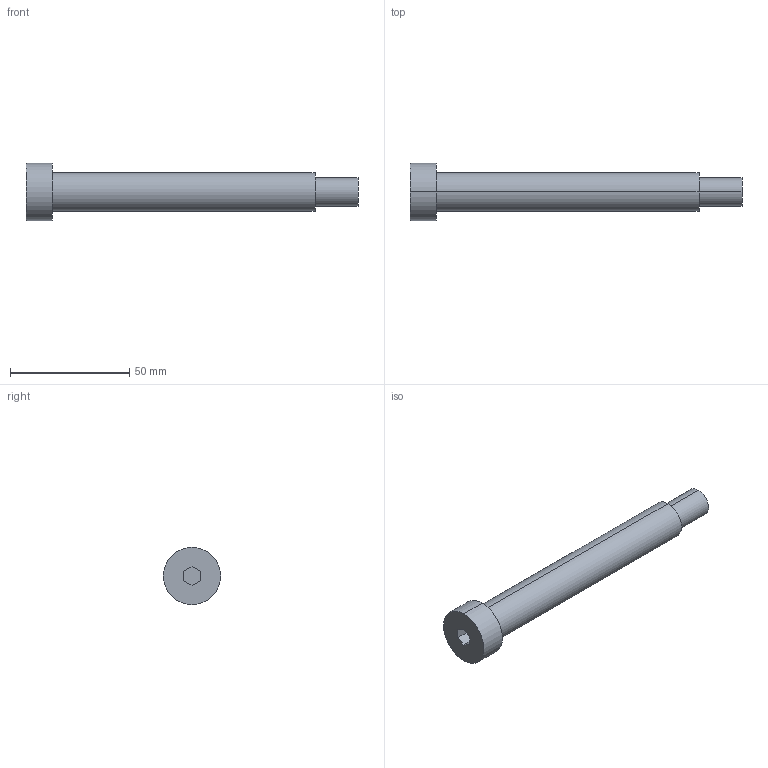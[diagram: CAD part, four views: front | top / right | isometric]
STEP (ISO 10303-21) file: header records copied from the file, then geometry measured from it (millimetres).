
FILE_DESCRIPTION (( 'STEP AP214' ), '1' );
FILE_NAME ('TPM-12x110.STEP', '2020-07-06T13:18:36', ( '' ), ( '' ), 'SwSTEP 2.0', 'SolidWorks 2018', '' );
FILE_SCHEMA (( 'AUTOMOTIVE_DESIGN' ));
Length unit declared in the file: millimetre
Products named in the file (1): TPM-12x110
Bounding box: 139 x 24 x 24 mm (x, y, z)
Volume: 28796.3 mm3; surface area: 8133.9 mm2
Topology: 1 solids, 1 shells, 17 faces, 36 edges, 24 vertices
Faces by surface type: plane 11, cylinder 6
Entity records: 496 total; most frequent: DIRECTION 84, CARTESIAN_POINT 78, ORIENTED_EDGE 72, EDGE_CURVE 36, AXIS2_PLACEMENT_3D 30, LINE 24, VERTEX_POINT 24, VECTOR 24
